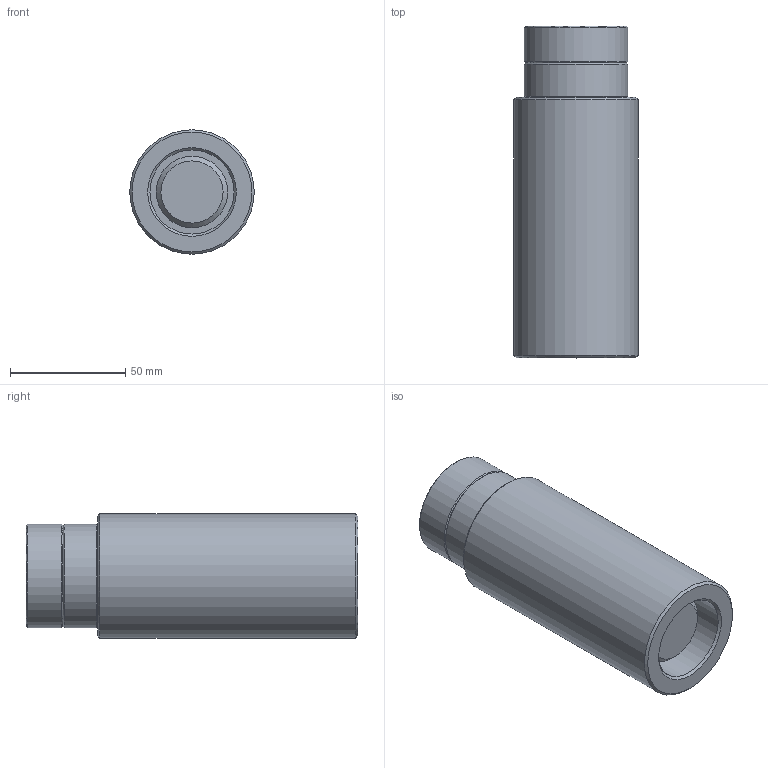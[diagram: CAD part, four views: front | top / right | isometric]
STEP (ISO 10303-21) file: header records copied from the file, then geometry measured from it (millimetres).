
FILE_DESCRIPTION(/* description */ (''),/* implementation_level */ '2;1');
FILE_NAME(/* name */ '',/* time_stamp */ '2025-05-21T14:19:45+03:00',/* author */ ('User'),/* organization */ (''),/* preprocessor_version */ 'ST-DEVELOPER v19.2',/* originating_system */ 'Autodesk Inventor 2024',/* authorisation */ '');
FILE_SCHEMA (('AUTOMOTIVE_DESIGN { 1 0 10303 214 3 1 1 }'));
Length unit declared in the file: millimetre
Products named in the file (3): Домкрат винтовой 
S-300; Основание; Домкрат винтовой 
S-300_1
Assembly tree (2 placements, depth 2):
  Домкрат винтовой 
S-300
    Основание
    Домкрат винтовой 
S-300_1
Bounding box: 54 x 144 x 54 mm (x, y, z)
Volume: 283054.6 mm3; surface area: 56118.8 mm2
Topology: 3 solids, 3 shells, 24 faces, 48 edges, 32 vertices
Faces by surface type: cone 9, plane 8, cylinder 7
Full cylindrical faces by diameter (mm): 30 x2, 31 x1, 36.5 x1, 45 x2, 54 x1
Entity records: 758 total; most frequent: DIRECTION 138, CARTESIAN_POINT 109, ORIENTED_EDGE 96, AXIS2_PLACEMENT_3D 61, EDGE_CURVE 48, CIRCLE 32, VERTEX_POINT 32, EDGE_LOOP 30
